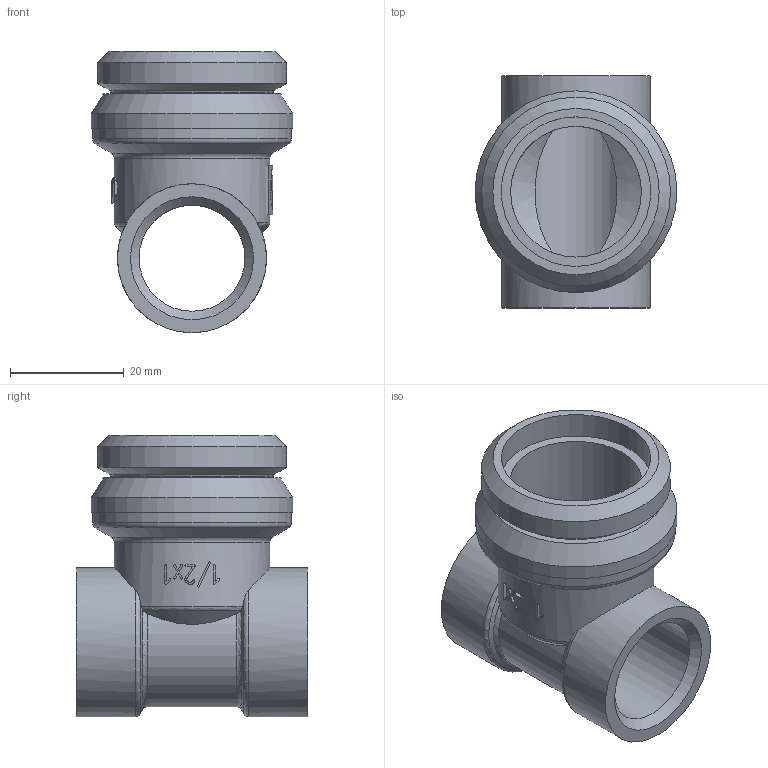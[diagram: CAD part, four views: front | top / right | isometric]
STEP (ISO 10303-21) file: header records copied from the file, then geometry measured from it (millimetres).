
FILE_DESCRIPTION(('STEP AP203'), '1');
FILE_NAME('VTc.530.N.060404', '2024-09-09T06:13:54', ('User'), ('Vesta'), 'C3D Converter', 'C3D Toolkit', '');
FILE_SCHEMA(('CONFIG_CONTROL_DESIGN'));
Length unit declared in the file: millimetre
Products named in the file (1): ВР.302635.122.000 СБ
Bounding box: 35.5 x 40.8 x 49.5 mm (x, y, z)
Volume: 16874.5 mm3; surface area: 11073.4 mm2
Topology: 1 solids, 1 shells, 159 faces, 428 edges, 282 vertices
Faces by surface type: extrusion 66, plane 52, cylinder 20, cone 12, torus 9
Full cylindrical faces by diameter (mm): 18.632 x1, 23 x1, 26.2 x2, 26.3 x1, 27.4 x1, 28.6 x1, 33.249 x1, 35 x1, 35.5 x1
Entity records: 7101 total; most frequent: CARTESIAN_POINT 3586, ORIENTED_EDGE 818, DIRECTION 499, EDGE_CURVE 409, VERTEX_POINT 282, B_SPLINE_CURVE_WITH_KNOTS 230, VECTOR 199, EDGE_LOOP 193
